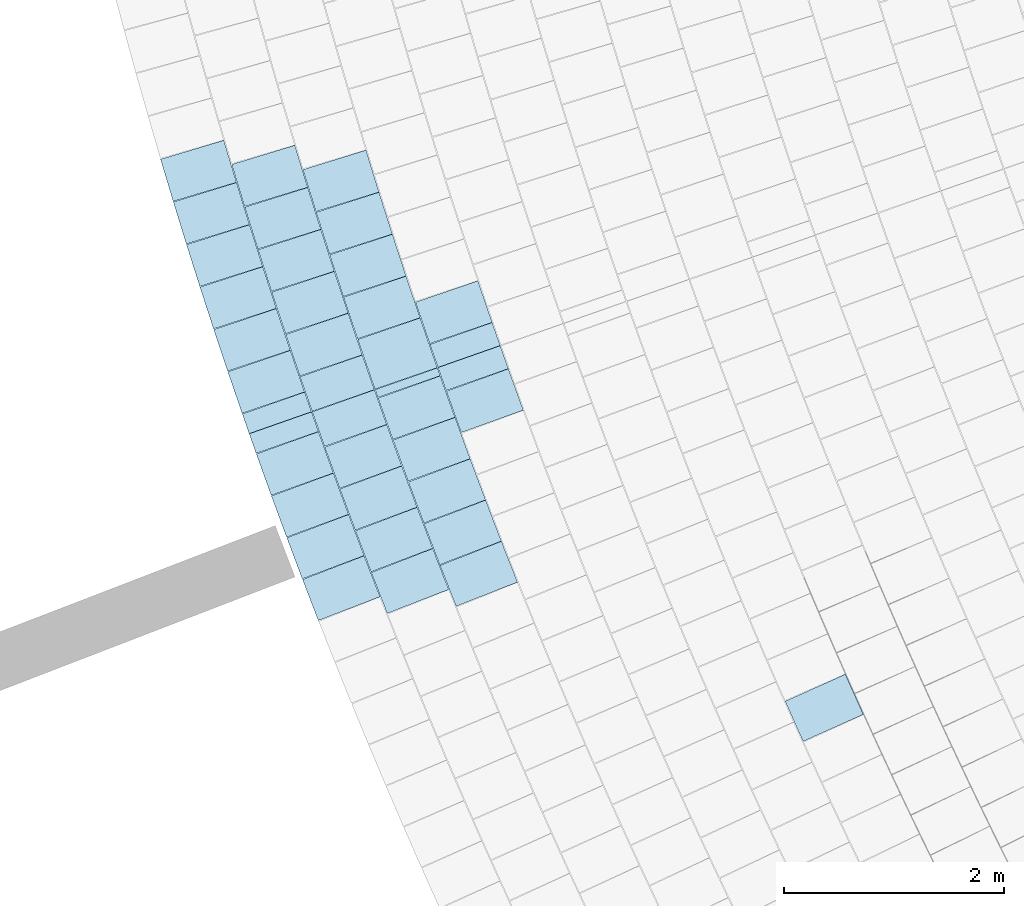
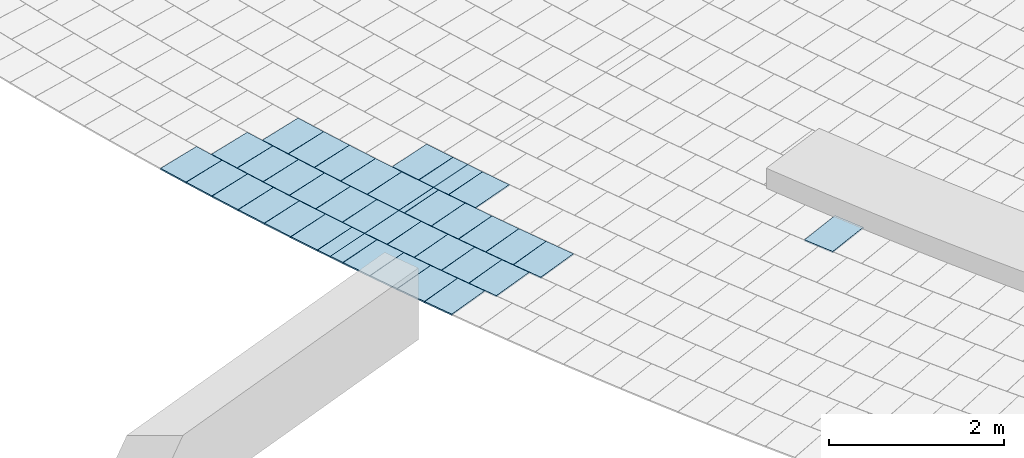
# One storey, part 68 of 438: 39 slabs.
"""IFC2X3 building model written with IfcOpenShell, lengths in millimetres."""

from ifc_helpers import new_model, entity, si_unit, converted_unit, derived_unit, direction, frame, frame_2d, origin, origin_2d_with_axis, place, context, subcontext, project, spatial, polyline, rectangle, outline, extrude, material, layer, layer_set, layer_usage, type_object, element, save


model = new_model("IFC2X3")

# Units and contexts
model_context = context("Model", 3, precision=0.01, world=origin(), true_north=direction((6.123031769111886e-17, 1.0)))
body_context = subcontext(model_context, "Body", "Model", "MODEL_VIEW")
ifc_project = project(units=[si_unit("LENGTHUNIT", "METRE", prefix="MILLI"), si_unit("AREAUNIT", "SQUARE_METRE"), si_unit("VOLUMEUNIT", "CUBIC_METRE"), converted_unit("PLANEANGLEUNIT", "DEGREE", entity("IfcRatioMeasure", 0.017453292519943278), si_unit("PLANEANGLEUNIT", "RADIAN"), dimensions=[0, 0, 0, 0, 0, 0, 0]), si_unit("MASSUNIT", "GRAM", prefix="KILO"), derived_unit("MASSDENSITYUNIT", [(si_unit("MASSUNIT", "GRAM", prefix="KILO"), 1), (si_unit("LENGTHUNIT", "METRE"), -3)]), derived_unit("MOMENTOFINERTIAUNIT", [(si_unit("LENGTHUNIT", "METRE"), 4)]), si_unit("TIMEUNIT", "SECOND"), si_unit("FREQUENCYUNIT", "HERTZ"), si_unit("THERMODYNAMICTEMPERATUREUNIT", "DEGREE_CELSIUS"), derived_unit("THERMALTRANSMITTANCEUNIT", [(si_unit("MASSUNIT", "GRAM", prefix="KILO"), 1), (si_unit("THERMODYNAMICTEMPERATUREUNIT", "KELVIN"), -1), (si_unit("TIMEUNIT", "SECOND"), -3)]), derived_unit("THERMALCONDUCTANCEUNIT", [(si_unit("MASSUNIT", "GRAM", prefix="KILO"), 1), (si_unit("LENGTHUNIT", "METRE"), 1), (si_unit("THERMODYNAMICTEMPERATUREUNIT", "KELVIN"), -1), (si_unit("TIMEUNIT", "SECOND"), -3)]), derived_unit("VOLUMETRICFLOWRATEUNIT", [(si_unit("LENGTHUNIT", "METRE"), 3), (si_unit("TIMEUNIT", "SECOND"), -1)]), derived_unit("MASSFLOWRATEUNIT", [(si_unit("MASSUNIT", "GRAM", prefix="KILO"), 1), (si_unit("TIMEUNIT", "SECOND"), -1)]), derived_unit("ROTATIONALFREQUENCYUNIT", [(si_unit("TIMEUNIT", "SECOND"), -1)]), si_unit("ELECTRICCURRENTUNIT", "AMPERE"), si_unit("ELECTRICVOLTAGEUNIT", "VOLT"), si_unit("POWERUNIT", "WATT"), converted_unit("FORCEUNIT", "KIP", entity("IfcRatioMeasure", 2.088543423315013e-05), si_unit("FORCEUNIT", "NEWTON"), dimensions=[1, 1, -2, 0, 0, 0, 0]), si_unit("ILLUMINANCEUNIT", "LUX"), si_unit("LUMINOUSFLUXUNIT", "LUMEN"), si_unit("LUMINOUSINTENSITYUNIT", "CANDELA"), derived_unit("USERDEFINED", [(si_unit("MASSUNIT", "GRAM", prefix="KILO"), -1), (si_unit("LENGTHUNIT", "METRE"), -2), (si_unit("TIMEUNIT", "SECOND"), 3), (si_unit("LUMINOUSFLUXUNIT", "LUMEN"), 1)]), derived_unit("USERDEFINED", [(si_unit("MASSUNIT", "GRAM", prefix="KILO"), 1), (si_unit("LENGTHUNIT", "METRE"), 3), (si_unit("TIMEUNIT", "SECOND"), -3), (si_unit("ELECTRICCURRENTUNIT", "AMPERE"), -2)]), derived_unit("USERDEFINED", [(si_unit("LENGTHUNIT", "METRE"), 2), (si_unit("TIMEUNIT", "SECOND"), -2)]), derived_unit("SOUNDPOWERUNIT", [(si_unit("MASSUNIT", "GRAM", prefix="KILO"), 1), (si_unit("LENGTHUNIT", "METRE"), 2), (si_unit("TIMEUNIT", "SECOND"), -3)]), derived_unit("SOUNDPRESSUREUNIT", [(si_unit("MASSUNIT", "GRAM", prefix="KILO"), 1), (si_unit("LENGTHUNIT", "METRE"), -1), (si_unit("TIMEUNIT", "SECOND"), -2)]), derived_unit("LINEARVELOCITYUNIT", [(si_unit("LENGTHUNIT", "METRE"), 1), (si_unit("TIMEUNIT", "SECOND"), -1)]), si_unit("PRESSUREUNIT", "PASCAL"), derived_unit("USERDEFINED", [(si_unit("LENGTHUNIT", "METRE"), -2), (si_unit("MASSUNIT", "GRAM", prefix="KILO"), 1), (si_unit("TIMEUNIT", "SECOND"), -2)]), derived_unit("LINEARFORCEUNIT", [(si_unit("MASSUNIT", "GRAM", prefix="KILO"), 1), (si_unit("LENGTHUNIT", "METRE"), 1), (si_unit("TIMEUNIT", "SECOND"), -2), (si_unit("LENGTHUNIT", "METRE"), -1)]), derived_unit("PLANARFORCEUNIT", [(si_unit("MASSUNIT", "GRAM", prefix="KILO"), 1), (si_unit("LENGTHUNIT", "METRE"), 1), (si_unit("TIMEUNIT", "SECOND"), -2), (si_unit("LENGTHUNIT", "METRE"), -2)]), derived_unit("SPECIFICHEATCAPACITYUNIT", [(si_unit("LENGTHUNIT", "METRE"), 2), (si_unit("TIMEUNIT", "SECOND"), -2), (si_unit("THERMODYNAMICTEMPERATUREUNIT", "KELVIN"), -1)]), derived_unit("VAPORPERMEABILITYUNIT", [(si_unit("TIMEUNIT", "SECOND"), 1), (si_unit("LENGTHUNIT", "METRE"), -1)]), derived_unit("DYNAMICVISCOSITYUNIT", [(si_unit("MASSUNIT", "GRAM", prefix="KILO"), 1), (si_unit("LENGTHUNIT", "METRE"), -1), (si_unit("TIMEUNIT", "SECOND"), -1)]), derived_unit("THERMALEXPANSIONCOEFFICIENTUNIT", [(si_unit("THERMODYNAMICTEMPERATUREUNIT", "KELVIN"), -1)])], contexts=[model_context])

# Site, building, storey
site_placement = place(None, frame((0.0, 0.0, 0.0), z_axis=(0.0, 0.0, 1.0), x_axis=(0.8191520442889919, 0.5735764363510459, 0.0)))
site = spatial("IfcSite", under=ifc_project, at=site_placement, Name="Default", CompositionType="ELEMENT")
building_placement = place(site_placement, origin())
building = spatial("IfcBuilding", under=site, at=building_placement, CompositionType="ELEMENT")
storey_placement = place(building_placement, origin())
storey = spatial("IfcBuildingStorey", under=building, at=storey_placement, Name="PLAN", CompositionType="ELEMENT", Elevation=0.0)

# Slabs
ifc_material = material(Name="Paint-01")
ifc_layer = layer(ifc_material, 20.00000000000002)
ifc_layer_set = layer_set([ifc_layer], Name="Floor:Slab-179:1000")
ifc_layer_usage = layer_usage(ifc_layer_set, "AXIS3", "POSITIVE", 0.0)
slab_type = type_object("IfcSlabType", Name="Floor:Slab-179:1000", PredefinedType="FLOOR", material=ifc_layer_set)
slab_1_placement = place(storey_placement, origin())
element("IfcSlab", 1, at=slab_1_placement, inside=storey, type_object=slab_type, material=ifc_layer_usage, Name="Floor:Slab-179:1000", ObjectType="Floor:Slab-179:1000", PredefinedType="FLOOR", context=body_context, shape_type="SweptSolid", body=[
    extrude(outline(polyline([(-300.0, -200.0000029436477), (299.999997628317, -200.0000029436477), (300.0, 200.00000294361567), (-299.9999976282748, 200.0000029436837), (-300.0, -200.0000029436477)])), frame((-87968.77597556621, -58809.71199516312, 520.0), z_axis=(0.0, 0.0, -1.0), x_axis=(0.9821016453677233, -0.1883516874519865, 0.0)), (0.0, 0.0, 1.0), 19.999999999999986),
])
slab_2_placement = place(storey_placement, origin())
element("IfcSlab", 2, at=slab_2_placement, inside=storey, type_object=slab_type, material=ifc_layer_usage, Name="Floor:Slab-179:1000", ObjectType="Floor:Slab-179:1000", PredefinedType="FLOOR", context=body_context, shape_type="SweptSolid", body=[
    extrude(outline(polyline([(-299.9999986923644, -111.39281443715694), (299.99999869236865, -111.39281443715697), (299.99999869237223, 111.3928160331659), (-299.99999869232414, 111.39281284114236), (-299.9999986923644, -111.39281443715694)])), frame((-88810.32534702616, -54456.479456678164, 520.0), z_axis=(0.0, 0.0, -1.0), x_axis=(0.9629308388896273, -0.2697484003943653, 0.0)), (0.0, 0.0, 1.0), 20.000000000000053),
])
slab_3_placement = place(storey_placement, origin())
element("IfcSlab", 3, at=slab_3_placement, inside=storey, type_object=slab_type, material=ifc_layer_usage, Name="Floor:Slab-179:1000", ObjectType="Floor:Slab-179:1000", PredefinedType="FLOOR", context=body_context, shape_type="SweptSolid", body=[
    extrude(outline(polyline([(-300.0, -200.00000294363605), (299.99999762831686, -200.00000294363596), (300.0, 200.00000294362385), (-299.9999976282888, 200.00000294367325), (-300.0, -200.00000294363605)])), frame((-88893.41936297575, -54759.06657723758, 520.0), z_axis=(0.0, 0.0, -1.0), x_axis=(0.9650567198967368, -0.26204107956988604, 0.0)), (0.0, 0.0, 1.0), 19.99999999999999),
])
slab_4_placement = place(storey_placement, origin())
element("IfcSlab", 4, at=slab_4_placement, inside=storey, type_object=slab_type, material=ifc_layer_usage, Name="Floor:Slab-179:1000", ObjectType="Floor:Slab-179:1000", PredefinedType="FLOOR", context=body_context, shape_type="SweptSolid", body=[
    extrude(outline(polyline([(-300.0, -200.00000294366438), (299.9999976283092, -200.00000294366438), (300.0, 200.0000029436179), (-299.99999762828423, 200.00000294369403), (-300.0, -200.00000294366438)])), frame((-89839.46816080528, -56014.19868811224, 520.0), z_axis=(0.0, 0.0, -1.0), x_axis=(0.9721675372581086, -0.23428674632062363, 0.0)), (0.0, 0.0, 1.0), 20.000000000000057),
])
slab_5_placement = place(storey_placement, origin())
element("IfcSlab", 5, at=slab_5_placement, inside=storey, type_object=slab_type, material=ifc_layer_usage, Name="Floor:Slab-179:1000", ObjectType="Floor:Slab-179:1000", PredefinedType="FLOOR", context=body_context, shape_type="SweptSolid", body=[
    extrude(outline(polyline([(-300.0, -200.00000294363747), (299.9999976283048, -200.00000294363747), (300.0, 200.00000294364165), (-299.99999762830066, 200.00000294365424), (-300.0, -200.00000294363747)])), frame((-89743.65465742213, -55623.40617316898, 520.0), z_axis=(0.0, 0.0, -1.0), x_axis=(0.9702864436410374, -0.24195912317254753, 0.0)), (0.0, 0.0, 1.0), 20.000000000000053),
])
slab_6_placement = place(storey_placement, origin())
element("IfcSlab", 6, at=slab_6_placement, inside=storey, type_object=slab_type, material=ifc_layer_usage, Name="Floor:Slab-179:1000", ObjectType="Floor:Slab-179:1000", PredefinedType="FLOOR", context=body_context, shape_type="SweptSolid", body=[
    extrude(outline(polyline([(-300.0, -200.00000294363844), (299.9999976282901, -200.0000029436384), (300.0, 200.0000029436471), (-299.9999976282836, 200.0000029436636), (-300.0, -200.00000294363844)])), frame((-89644.75705819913, -55233.38273536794, 520.0), z_axis=(0.0, 0.0, -1.0), x_axis=(0.9683448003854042, -0.2496164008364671, 0.0)), (0.0, 0.0, 1.0), 20.000000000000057),
])
slab_7_placement = place(storey_placement, origin())
element("IfcSlab", 7, at=slab_7_placement, inside=storey, type_object=slab_type, material=ifc_layer_usage, Name="Floor:Slab-179:1000", ObjectType="Floor:Slab-179:1000", PredefinedType="FLOOR", context=body_context, shape_type="SweptSolid", body=[
    extrude(rectangle(XDim=599.9992142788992, YDim=399.99948381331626, at=origin_2d_with_axis()), frame((-89542.34396361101, -54843.76816482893, 520.0), z_axis=(0.0, 0.0, -1.0), x_axis=(0.9659258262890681, -0.25881904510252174, 0.0)), (0.0, 0.0, 1.0), 20.000000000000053),
])
slab_8_placement = place(storey_placement, origin())
element("IfcSlab", 8, at=slab_8_placement, inside=storey, type_object=slab_type, material=ifc_layer_usage, Name="Floor:Slab-179:1000", ObjectType="Floor:Slab-179:1000", PredefinedType="FLOOR", context=body_context, shape_type="SweptSolid", body=[
    extrude(outline(polyline([(-299.99999889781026, -38.62511495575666), (299.99999848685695, -38.62511495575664), (299.9999988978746, 38.62511495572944), (-299.9999984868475, 38.625114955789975), (-299.99999889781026, -38.62511495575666)])), frame((-89373.59586617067, -54223.43813346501, 520.0), z_axis=(0.0, 0.0, -1.0), x_axis=(0.9621578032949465, -0.2724928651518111, 0.0)), (0.0, 0.0, 1.0), 20.000000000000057),
])
slab_9_placement = place(storey_placement, origin())
element("IfcSlab", 9, at=slab_9_placement, inside=storey, type_object=slab_type, material=ifc_layer_usage, Name="Floor:Slab-179:1000", ObjectType="Floor:Slab-179:1000", PredefinedType="FLOOR", context=body_context, shape_type="SweptSolid", body=[
    extrude(outline(polyline([(-300.0, -200.00000294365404), (299.9999976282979, -200.0000029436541), (300.0, 200.00000294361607), (-299.9999976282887, 200.00000294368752), (-300.0, -200.00000294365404)])), frame((-89437.73445068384, -54455.740397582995, 520.0), z_axis=(0.0, 0.0, -1.0), x_axis=(0.9642803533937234, -0.2648837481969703, 0.0)), (0.0, 0.0, 1.0), 19.99999999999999),
])
slab_10_placement = place(storey_placement, origin())
element("IfcSlab", 10, at=slab_10_placement, inside=storey, type_object=slab_type, material=ifc_layer_usage, Name="Floor:Slab-179:1000", ObjectType="Floor:Slab-179:1000", PredefinedType="FLOOR", context=body_context, shape_type="SweptSolid", body=[
    extrude(outline(polyline([(-300.0, -200.00000294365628), (299.99999762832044, -200.00000294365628), (300.0, 200.00000294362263), (-299.9999976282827, 200.00000294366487), (-300.0, -200.00000294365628)])), frame((-90388.11733389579, -55709.66228861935, 520.0), z_axis=(0.0, 0.0, -1.0), x_axis=(0.9714009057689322, -0.23744532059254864, 0.0)), (0.0, 0.0, 1.0), 20.000000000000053),
])
slab_11_placement = place(storey_placement, origin())
element("IfcSlab", 11, at=slab_11_placement, inside=storey, type_object=slab_type, material=ifc_layer_usage, Name="Floor:Slab-179:1000", ObjectType="Floor:Slab-179:1000", PredefinedType="FLOOR", context=body_context, shape_type="SweptSolid", body=[
    extrude(outline(polyline([(-300.0, -200.00000294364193), (299.9999976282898, -200.00000294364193), (300.0, 200.0000029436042), (-299.9999976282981, 200.00000294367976), (-300.0, -200.00000294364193)])), frame((-90291.05909624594, -55319.20581477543, 520.0), z_axis=(0.0, 0.0, -1.0), x_axis=(0.9695177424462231, -0.24502111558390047, 0.0)), (0.0, 0.0, 1.0), 20.000000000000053),
])
slab_12_placement = place(storey_placement, origin())
element("IfcSlab", 12, at=slab_12_placement, inside=storey, type_object=slab_type, material=ifc_layer_usage, Name="Floor:Slab-179:1000", ObjectType="Floor:Slab-179:1000", PredefinedType="FLOOR", context=body_context, shape_type="SweptSolid", body=[
    extrude(outline(polyline([(-300.0, -200.00000294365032), (299.99999762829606, -200.0000029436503), (300.0, 200.0000029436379), (-299.9999976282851, 200.0000029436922), (-300.0, -200.00000294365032)])), frame((-90190.95580239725, -54929.5189019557, 520.0), z_axis=(0.0, 0.0, -1.0), x_axis=(0.967575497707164, -0.2525819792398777, 0.0)), (0.0, 0.0, 1.0), 20.000000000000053),
])
slab_13_placement = place(storey_placement, origin())
element("IfcSlab", 13, at=slab_13_placement, inside=storey, type_object=slab_type, material=ifc_layer_usage, Name="Floor:Slab-179:1000", ObjectType="Floor:Slab-179:1000", PredefinedType="FLOOR", context=body_context, shape_type="SweptSolid", body=[
    extrude(rectangle(XDim=599.999446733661, YDim=399.99963878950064, at=frame_2d((8.355982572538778e-12, -2.2311041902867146e-12), x_axis=(1.0, 0.0))), frame((-90088.18047513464, -54540.947760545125, 520.0), z_axis=(0.0, 0.0, -1.0), x_axis=(0.9659258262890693, -0.25881904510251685, 0.0)), (0.0, 0.0, 1.0), 20.000000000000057),
])
slab_14_placement = place(storey_placement, origin())
element("IfcSlab", 14, at=slab_14_placement, inside=storey, type_object=slab_type, material=ifc_layer_usage, Name="Floor:Slab-179:1000", ObjectType="Floor:Slab-179:1000", PredefinedType="FLOOR", context=body_context, shape_type="SweptSolid", body=[
    extrude(outline(polyline([(-300.0, -167.29426668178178), (299.99999780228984, -167.29426668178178), (300.0, 167.29426668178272), (-299.99999780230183, 167.2942666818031), (-300.0, -167.29426668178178)])), frame((-89990.39255345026, -54184.061142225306, 520.0), z_axis=(0.0, 0.0, -1.0), x_axis=(0.96351424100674, -0.2676570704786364, 0.0)), (0.0, 0.0, 1.0), 20.000000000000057),
])
slab_15_placement = place(storey_placement, origin())
element("IfcSlab", 15, at=slab_15_placement, inside=storey, type_object=slab_type, material=ifc_layer_usage, Name="Floor:Slab-179:1000", ObjectType="Floor:Slab-179:1000", PredefinedType="FLOOR", context=body_context, shape_type="SweptSolid", body=[
    extrude(outline(polyline([(-300.0, -200.00000294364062), (299.99999762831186, -200.00000294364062), (300.0, 200.0000029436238), (-299.99999762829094, 200.0000029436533), (-300.0, -200.00000294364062)])), frame((-90936.25532918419, -55405.27421630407, 520.0), z_axis=(0.0, 0.0, -1.0), x_axis=(0.9706422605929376, -0.24052775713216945, 0.0)), (0.0, 0.0, 1.0), 19.99999999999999),
])
slab_16_placement = place(storey_placement, origin())
element("IfcSlab", 16, at=slab_16_placement, inside=storey, type_object=slab_type, material=ifc_layer_usage, Name="Floor:Slab-179:1000", ObjectType="Floor:Slab-179:1000", PredefinedType="FLOOR", context=body_context, shape_type="SweptSolid", body=[
    extrude(outline(polyline([(-300.0, -200.0000029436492), (299.9999976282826, -200.00000294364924), (300.0, 200.00000294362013), (-299.9999976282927, 200.00000294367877), (-300.0, -200.0000029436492)])), frame((-90736.70278475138, -54625.79512457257, 520.0), z_axis=(0.0, 0.0, -1.0), x_axis=(0.9668153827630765, -0.2554760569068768, 0.0)), (0.0, 0.0, 1.0), 19.99999999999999),
])
slab_17_placement = place(storey_placement, origin())
element("IfcSlab", 17, at=slab_17_placement, inside=storey, type_object=slab_type, material=ifc_layer_usage, Name="Floor:Slab-179:1000", ObjectType="Floor:Slab-179:1000", PredefinedType="FLOOR", context=body_context, shape_type="SweptSolid", body=[
    extrude(outline(polyline([(-300.0, -200.00000294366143), (299.99999762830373, -200.00000294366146), (300.0, 200.00000294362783), (-299.99999762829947, 200.00000294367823), (-300.0, -200.00000294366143)])), frame((-90837.98253676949, -55015.149768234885, 520.0), z_axis=(0.0, 0.0, -1.0), x_axis=(0.9687576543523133, -0.2480092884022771, 0.0)), (0.0, 0.0, 1.0), 19.99999999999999),
])
slab_18_placement = place(storey_placement, origin())
element("IfcSlab", 18, at=slab_18_placement, inside=storey, type_object=slab_type, material=ifc_layer_usage, Name="Floor:Slab-179:1000", ObjectType="Floor:Slab-179:1000", PredefinedType="FLOOR", context=body_context, shape_type="SweptSolid", body=[
    extrude(outline(polyline([(-300.0, -200.00000294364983), (299.9999976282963, -200.00000294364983), (300.0, 200.00000294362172), (-299.99999762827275, 200.00000294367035), (-300.0, -200.00000294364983)])), frame((-90632.42210181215, -54237.23346167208, 520.0), z_axis=(0.0, 0.0, -1.0), x_axis=(0.9648155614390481, -0.26292761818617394, 0.0)), (0.0, 0.0, 1.0), 20.000000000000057),
])
slab_19_placement = place(storey_placement, origin())
element("IfcSlab", 19, at=slab_19_placement, inside=storey, type_object=slab_type, material=ifc_layer_usage, Name="Floor:Slab-179:1000", ObjectType="Floor:Slab-179:1000", PredefinedType="FLOOR", context=body_context, shape_type="SweptSolid", body=[
    extrude(outline(polyline([(-299.9999991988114, -95.19024377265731), (299.9999981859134, -95.19024377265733), (299.9999991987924, 95.19024377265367), (-299.9999981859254, 95.1902437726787), (-299.9999991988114, -95.19024377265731)])), frame((-90553.48343105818, -53950.39437538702, 520.0), z_axis=(0.0, 0.0, -1.0), x_axis=(0.9627583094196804, -0.27036352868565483, 0.0)), (0.0, 0.0, 1.0), 20.000000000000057),
])
slab_20_placement = place(storey_placement, origin())
element("IfcSlab", 20, at=slab_20_placement, inside=storey, type_object=slab_type, material=ifc_layer_usage, Name="Floor:Slab-179:1000", ObjectType="Floor:Slab-179:1000", PredefinedType="FLOOR", context=body_context, shape_type="SweptSolid", body=[
    extrude(outline(polyline([(-200.00000453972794, -299.99999869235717), (200.00000134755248, -299.99999869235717), (200.00000453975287, 299.9999986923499), (-200.00000134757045, 299.9999986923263), (-200.00000453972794, -299.99999869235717)])), frame((-88663.70014372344, -53940.45264742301, 520.0), z_axis=(0.0, 0.0, -1.0), x_axis=(-0.27830601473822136, -0.9604924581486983, 0.0)), (0.0, 0.0, 1.0), 20.000000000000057),
])
slab_21_placement = place(storey_placement, origin())
element("IfcSlab", 21, at=slab_21_placement, inside=storey, type_object=slab_type, material=ifc_layer_usage, Name="Floor:Slab-179:1000", ObjectType="Floor:Slab-179:1000", PredefinedType="FLOOR", context=body_context, shape_type="SweptSolid", body=[
    extrude(outline(polyline([(-299.9999980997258, -111.39281523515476), (299.9999992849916, -111.39281523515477), (299.99999809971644, 111.39281523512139), (-299.9999992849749, 111.39281523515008), (-299.9999980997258, -111.39281523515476)])), frame((-88750.16455004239, -54242.09397077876, 520.0), z_axis=(0.0, 0.0, -1.0), x_axis=(0.9626868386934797, -0.2706179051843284, 0.0)), (0.0, 0.0, 1.0), 20.000000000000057),
])
slab_22_placement = place(storey_placement, origin())
element("IfcSlab", 22, at=slab_22_placement, inside=storey, type_object=slab_type, material=ifc_layer_usage, Name="Floor:Slab-179:1000", ObjectType="Floor:Slab-179:1000", PredefinedType="FLOOR", context=body_context, shape_type="SweptSolid", body=[
    extrude(outline(polyline([(-200.00000453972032, -299.9999986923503), (200.0000013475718, -299.9999986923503), (200.00000453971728, 299.99999869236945), (-200.0000013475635, 299.99999869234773), (-200.00000453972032, -299.9999986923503)])), frame((-88940.11328043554, -52759.953273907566, 520.0), z_axis=(0.0, 0.0, -1.0), x_axis=(-0.29817691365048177, -0.9545106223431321, 0.0)), (0.0, 0.0, 1.0), 20.000000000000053),
])
slab_23_placement = place(storey_placement, origin())
element("IfcSlab", 23, at=slab_23_placement, inside=storey, type_object=slab_type, material=ifc_layer_usage, Name="Floor:Slab-179:1000", ObjectType="Floor:Slab-179:1000", PredefinedType="FLOOR", context=body_context, shape_type="SweptSolid", body=[
    extrude(outline(polyline([(-200.0000045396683, -299.9999986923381), (200.0000013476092, -299.9999986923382), (200.00000453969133, 299.9999986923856), (-200.00000134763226, 299.9999986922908), (-200.0000045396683, -299.9999986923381)])), frame((-89173.98907178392, -53529.9455334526, 520.0), z_axis=(0.0, 0.0, -1.0), x_axis=(-0.28305975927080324, -0.9591022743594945, 0.0)), (0.0, 0.0, 1.0), 19.99999999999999),
])
slab_24_placement = place(storey_placement, origin())
element("IfcSlab", 24, at=slab_24_placement, inside=storey, type_object=slab_type, material=ifc_layer_usage, Name="Floor:Slab-179:1000", ObjectType="Floor:Slab-179:1000", PredefinedType="FLOOR", context=body_context, shape_type="SweptSolid", body=[
    extrude(outline(polyline([(-200.00000453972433, -299.9999986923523), (200.00000134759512, -299.9999986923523), (200.00000453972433, 299.9999986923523), (-200.00000134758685, 299.9999986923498), (-200.00000453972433, -299.9999986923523)])), frame((-89058.57184811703, -53144.48751803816, 520.0), z_axis=(0.0, 0.0, -1.0), x_axis=(-0.2906274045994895, -0.9568363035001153, 0.0)), (0.0, 0.0, 1.0), 19.999999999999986),
])
slab_25_placement = place(storey_placement, origin())
element("IfcSlab", 25, at=slab_25_placement, inside=storey, type_object=slab_type, material=ifc_layer_usage, Name="Floor:Slab-179:1000", ObjectType="Floor:Slab-179:1000", PredefinedType="FLOOR", context=body_context, shape_type="SweptSolid", body=[
    extrude(outline(polyline([(-239.34434811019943, -299.99999869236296), (239.34434491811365, -299.9999986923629), (239.34434811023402, 299.99999869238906), (-239.3443449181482, 299.99999869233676), (-239.34434811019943, -299.99999869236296)])), frame((-89297.19611035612, -53954.125313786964, 520.0), z_axis=(0.0, 0.0, -1.0), x_axis=(-0.275474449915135, -0.9613083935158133, 0.0)), (0.0, 0.0, 1.0), 20.000000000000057),
])
slab_26_placement = place(storey_placement, origin())
element("IfcSlab", 26, at=slab_26_placement, inside=storey, type_object=slab_type, material=ifc_layer_usage, Name="Floor:Slab-179:1000", ObjectType="Floor:Slab-179:1000", PredefinedType="FLOOR", context=body_context, shape_type="SweptSolid", body=[
    extrude(outline(polyline([(-200.00000453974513, -299.9999986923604), (200.0000013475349, -299.99999869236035), (200.00000453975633, 299.99999869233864), (-200.00000134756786, 299.999998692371), (-200.00000453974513, -299.9999986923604)])), frame((-88818.6207610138, -52376.36679748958, 520.0), z_axis=(0.0, 0.0, -1.0), x_axis=(-0.30570781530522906, -0.9521253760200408, 0.0)), (0.0, 0.0, 1.0), 20.000000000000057),
])
slab_27_placement = place(storey_placement, origin())
element("IfcSlab", 27, at=slab_27_placement, inside=storey, type_object=slab_type, material=ifc_layer_usage, Name="Floor:Slab-179:1000", ObjectType="Floor:Slab-179:1000", PredefinedType="FLOOR", context=body_context, shape_type="SweptSolid", body=[
    extrude(outline(polyline([(-200.00000453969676, -299.99999869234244), (200.0000013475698, -299.99999869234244), (200.0000045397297, 299.9999986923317), (-200.00000134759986, 299.99999869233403), (-200.00000453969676, -299.99999869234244)])), frame((-89322.36110764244, -51967.99940040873, 520.0), z_axis=(0.0, 0.0, -1.0), x_axis=(-0.3100425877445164, -0.9507226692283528, 0.0)), (0.0, 0.0, 1.0), 19.99999999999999),
])
slab_28_placement = place(storey_placement, origin())
element("IfcSlab", 28, at=slab_28_placement, inside=storey, type_object=slab_type, material=ifc_layer_usage, Name="Floor:Slab-179:1000", ObjectType="Floor:Slab-179:1000", PredefinedType="FLOOR", context=body_context, shape_type="SweptSolid", body=[
    extrude(outline(polyline([(-200.00000453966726, -299.99999869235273), (200.00000134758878, -299.99999869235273), (200.00000453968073, 299.9999986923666), (-200.0000013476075, 299.9999986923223), (-200.00000453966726, -299.99999869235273)])), frame((-89445.609324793, -52350.996053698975, 520.0), z_axis=(0.0, 0.0, -1.0), x_axis=(-0.3026115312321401, -0.9531139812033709, 0.0)), (0.0, 0.0, 1.0), 20.000000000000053),
])
slab_29_placement = place(storey_placement, origin())
element("IfcSlab", 29, at=slab_29_placement, inside=storey, type_object=slab_type, material=ifc_layer_usage, Name="Floor:Slab-179:1000", ObjectType="Floor:Slab-179:1000", PredefinedType="FLOOR", context=body_context, shape_type="SweptSolid", body=[
    extrude(outline(polyline([(-200.00000453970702, -299.99999869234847), (200.0000013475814, -299.9999986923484), (200.0000045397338, 299.99999869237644), (-200.00000134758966, 299.99999869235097), (-200.00000453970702, -299.99999869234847)])), frame((-89565.86400658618, -52734.94314767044, 520.0), z_axis=(0.0, 0.0, -1.0), x_axis=(-0.2951620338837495, -0.9554472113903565, 0.0)), (0.0, 0.0, 1.0), 20.000000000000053),
])
slab_30_placement = place(storey_placement, origin())
element("IfcSlab", 30, at=slab_30_placement, inside=storey, type_object=slab_type, material=ifc_layer_usage, Name="Floor:Slab-179:1000", ObjectType="Floor:Slab-179:1000", PredefinedType="FLOOR", context=body_context, shape_type="SweptSolid", body=[
    extrude(outline(polyline([(-200.0000045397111, -299.9999986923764), (200.00000134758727, -299.99999869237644), (200.0000045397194, 299.999998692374), (-200.0000013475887, 299.9999986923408), (-200.0000045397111, -299.9999986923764)])), frame((-89797.36363418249, -53505.59501179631, 520.0), z_axis=(0.0, 0.0, -1.0), x_axis=(-0.280209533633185, -0.9599388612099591, 0.0)), (0.0, 0.0, 1.0), 20.000000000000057),
])
slab_31_placement = place(storey_placement, origin())
element("IfcSlab", 31, at=slab_31_placement, inside=storey, type_object=slab_type, material=ifc_layer_usage, Name="Floor:Slab-179:1000", ObjectType="Floor:Slab-179:1000", PredefinedType="FLOOR", context=body_context, shape_type="SweptSolid", body=[
    extrude(outline(polyline([(-167.29426827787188, -299.9999986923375), (167.29426508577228, -299.9999986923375), (167.29426827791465, 299.9999986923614), (-167.2942650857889, 299.9999986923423), (-167.29426827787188, -299.9999986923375)])), frame((-89899.67537496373, -53860.78672824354, 520.0), z_axis=(0.0, 0.0, -1.0), x_axis=(-0.2727074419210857, -0.9620970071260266, 0.0)), (0.0, 0.0, 1.0), 19.99999999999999),
])
slab_32_placement = place(storey_placement, origin())
element("IfcSlab", 32, at=slab_32_placement, inside=storey, type_object=slab_type, material=ifc_layer_usage, Name="Floor:Slab-179:1000", ObjectType="Floor:Slab-179:1000", PredefinedType="FLOOR", context=body_context, shape_type="SweptSolid", body=[
    extrude(outline(polyline([(-200.00000453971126, -299.99999869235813), (200.00000134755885, -299.9999986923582), (200.00000453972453, 299.99999869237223), (-200.00000134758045, 299.99999869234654), (-200.00000453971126, -299.99999869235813)])), frame((-89683.11782482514, -53119.81728498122, 520.0), z_axis=(0.0, 0.0, -1.0), x_axis=(-0.28769454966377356, -0.9577222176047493, 0.0)), (0.0, 0.0, 1.0), 20.000000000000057),
])
slab_33_placement = place(storey_placement, origin())
element("IfcSlab", 33, at=slab_33_placement, inside=storey, type_object=slab_type, material=ifc_layer_usage, Name="Floor:Slab-179:1000", ObjectType="Floor:Slab-179:1000", PredefinedType="FLOOR", context=body_context, shape_type="SweptSolid", body=[
    extrude(outline(polyline([(-200.00000453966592, -299.999998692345), (200.00000134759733, -299.99999869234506), (200.00000453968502, 299.9999986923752), (-200.000001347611, 299.99999869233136), (-200.00000453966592, -299.999998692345)])), frame((-89825.11791241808, -51559.986200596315, 520.0), z_axis=(0.0, 0.0, -1.0), x_axis=(-0.3142699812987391, -0.9493336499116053, 0.0)), (0.0, 0.0, 1.0), 20.000000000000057),
])
slab_34_placement = place(storey_placement, origin())
element("IfcSlab", 34, at=slab_34_placement, inside=storey, type_object=slab_type, material=ifc_layer_usage, Name="Floor:Slab-179:1000", ObjectType="Floor:Slab-179:1000", PredefinedType="FLOOR", context=body_context, shape_type="SweptSolid", body=[
    extrude(outline(polyline([(-200.00000453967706, -299.99999869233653), (200.0000013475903, -299.99999869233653), (200.0000045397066, 299.9999986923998), (-200.00000134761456, 299.9999986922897), (-200.00000453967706, -299.99999869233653)])), frame((-89950.07809550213, -51942.39903949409, 520.0), z_axis=(0.0, 0.0, -1.0), x_axis=(-0.30693633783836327, -0.9517300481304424, 0.0)), (0.0, 0.0, 1.0), 19.99999999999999),
])
slab_35_placement = place(storey_placement, origin())
element("IfcSlab", 35, at=slab_35_placement, inside=storey, type_object=slab_type, material=ifc_layer_usage, Name="Floor:Slab-179:1000", ObjectType="Floor:Slab-179:1000", PredefinedType="FLOOR", context=body_context, shape_type="SweptSolid", body=[
    extrude(outline(polyline([(-200.0000045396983, -299.99999869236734), (200.00000134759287, -299.9999986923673), (200.00000453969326, 299.99999869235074), (-200.00000134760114, 299.9999986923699), (-200.0000045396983, -299.99999869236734)])), frame((-90191.12887811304, -52710.060027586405, 520.0), z_axis=(0.0, 0.0, -1.0), x_axis=(-0.2922146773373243, -0.9563527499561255, 0.0)), (0.0, 0.0, 1.0), 19.99999999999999),
])
slab_36_placement = place(storey_placement, origin())
element("IfcSlab", 36, at=slab_36_placement, inside=storey, type_object=slab_type, material=ifc_layer_usage, Name="Floor:Slab-179:1000", ObjectType="Floor:Slab-179:1000", PredefinedType="FLOOR", context=body_context, shape_type="SweptSolid", body=[
    extrude(outline(polyline([(-200.00000453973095, -299.9999986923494), (200.00000134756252, -299.99999869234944), (200.00000453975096, 299.9999986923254), (-200.00000134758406, 299.9999986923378), (-200.00000453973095, -299.9999986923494)])), frame((-90307.20512907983, -53095.26248172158, 520.0), z_axis=(0.0, 0.0, -1.0), x_axis=(-0.2848275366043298, -0.9585787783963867, 0.0)), (0.0, 0.0, 1.0), 20.000000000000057),
])
slab_37_placement = place(storey_placement, origin())
element("IfcSlab", 37, at=slab_37_placement, inside=storey, type_object=slab_type, material=ifc_layer_usage, Name="Floor:Slab-179:1000", ObjectType="Floor:Slab-179:1000", PredefinedType="FLOOR", context=body_context, shape_type="SweptSolid", body=[
    extrude(outline(polyline([(-200.00000453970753, -299.9999986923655), (200.00000134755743, -299.9999986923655), (200.00000453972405, 299.9999986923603), (-200.00000134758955, 299.9999986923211), (-200.00000453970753, -299.9999986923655)])), frame((-90072.08417153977, -52325.764588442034, 520.0), z_axis=(0.0, 0.0, -1.0), x_axis=(-0.2995844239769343, -0.9540697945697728, 0.0)), (0.0, 0.0, 1.0), 20.000000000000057),
])
slab_38_placement = place(storey_placement, origin())
element("IfcSlab", 38, at=slab_38_placement, inside=storey, type_object=slab_type, material=ifc_layer_usage, Name="Floor:Slab-179:1000", ObjectType="Floor:Slab-179:1000", PredefinedType="FLOOR", context=body_context, shape_type="SweptSolid", body=[
    extrude(outline(polyline([(-200.00000453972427, -299.99999869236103), (200.00000134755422, -299.9999986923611), (200.0000045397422, 299.99999869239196), (-200.00000134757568, 299.9999986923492), (-200.00000453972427, -299.99999869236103)])), frame((-90420.30601499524, -53481.34902165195, 520.0), z_axis=(0.0, 0.0, -1.0), x_axis=(-0.27742344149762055, -0.9607477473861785, 0.0)), (0.0, 0.0, 1.0), 19.99999999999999),
])
slab_39_placement = place(storey_placement, origin())
element("IfcSlab", 39, at=slab_39_placement, inside=storey, type_object=slab_type, material=ifc_layer_usage, Name="Floor:Slab-179:1000", ObjectType="Floor:Slab-179:1000", PredefinedType="FLOOR", context=body_context, shape_type="SweptSolid", body=[
    extrude(outline(polyline([(-299.9999981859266, -95.19024377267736), (299.999999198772, -95.19024377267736), (299.99999818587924, 95.19024377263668), (-299.9999991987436, 95.19024377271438), (-299.9999981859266, -95.19024377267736)])), frame((-90502.12587164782, -53767.37959033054, 520.0), z_axis=(0.0, 0.0, -1.0), x_axis=(0.9628595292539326, -0.2700028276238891, 0.0)), (0.0, 0.0, 1.0), 20.000000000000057),
])

save(model, "model.ifc")
